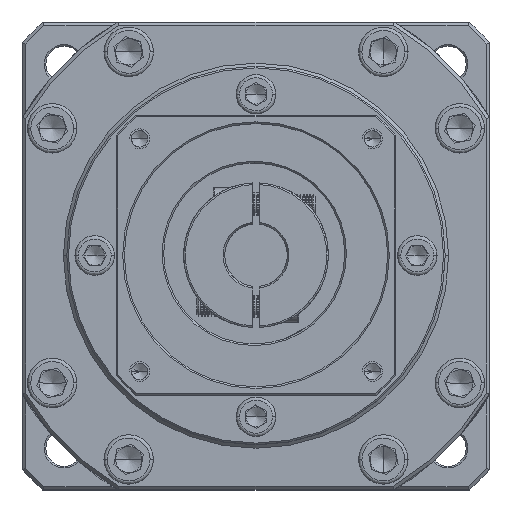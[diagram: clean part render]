
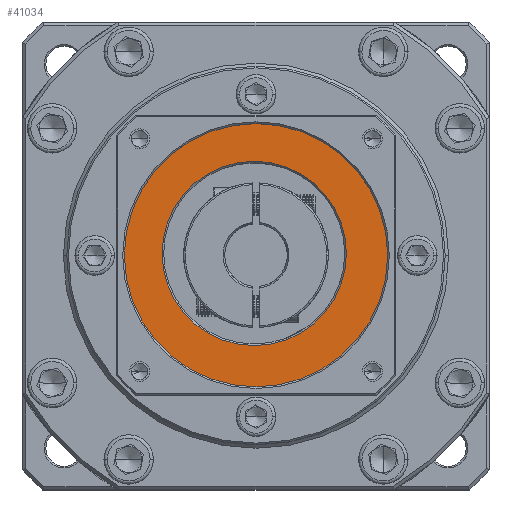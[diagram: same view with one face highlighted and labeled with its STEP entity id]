
A CAD part, top view. The second image highlights one B-rep face of the part: STEP entity #41034.
In plain terms, the highlighted planar face has unit normal (0, 0, 1).
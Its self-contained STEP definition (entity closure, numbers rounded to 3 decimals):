
#637 = DIRECTION ( 'NONE',  ( 0., 0., -1. ) ) ;
#3594 = DIRECTION ( 'NONE',  ( 0., 0., 1. ) ) ;
#15578 = CARTESIAN_POINT ( 'NONE',  ( -158.05, 126.321, 0.269 ) ) ;
#18620 = AXIS2_PLACEMENT_3D ( 'NONE', #46428, #637, #35638 ) ;
#21663 = AXIS2_PLACEMENT_3D ( 'NONE', #110351, #30998, #65456 ) ;
#29752 = ORIENTED_EDGE ( 'NONE', *, *, #109157, .T. ) ;
#29793 = CARTESIAN_POINT ( 'NONE',  ( -129.509, 125.787, 0.269 ) ) ;
#30998 = DIRECTION ( 'NONE',  ( 0., 0., -1. ) ) ;
#35638 = DIRECTION ( 'NONE',  ( 1., 0., 0. ) ) ;
#35914 = VERTEX_POINT ( 'NONE', #68005 ) ;
#37041 = EDGE_CURVE ( 'NONE', #78950, #104070, #124041, .T. ) ;
#39212 = CARTESIAN_POINT ( 'NONE',  ( -89.509, 125.787, 0.269 ) ) ;
#40655 = DIRECTION ( 'NONE',  ( 1., 0., 0. ) ) ;
#41034 = ADVANCED_FACE ( 'NONE', ( #93821, #107941 ), #129859, .T. ) ;
#44352 = ORIENTED_EDGE ( 'NONE', *, *, #104138, .T. ) ;
#46428 = CARTESIAN_POINT ( 'NONE',  ( -130.05, 126.321, 0.269 ) ) ;
#47706 = CIRCLE ( 'NONE', #18620, 28. ) ;
#49732 = CIRCLE ( 'NONE', #21663, 28. ) ;
#56144 = ORIENTED_EDGE ( 'NONE', *, *, #72880, .T. ) ;
#62219 = CARTESIAN_POINT ( 'NONE',  ( -129.509, 125.787, 0.269 ) ) ;
#65456 = DIRECTION ( 'NONE',  ( 1., 0., 0. ) ) ;
#68005 = CARTESIAN_POINT ( 'NONE',  ( -102.05, 126.321, 0.269 ) ) ;
#72119 = DIRECTION ( 'NONE',  ( 0., 0., 1. ) ) ;
#72880 = EDGE_CURVE ( 'NONE', #35914, #137741, #47706, .T. ) ;
#73685 = DIRECTION ( 'NONE',  ( 0., 0., 1. ) ) ;
#75957 = ORIENTED_EDGE ( 'NONE', *, *, #37041, .T. ) ;
#78950 = VERTEX_POINT ( 'NONE', #132210 ) ;
#93814 = DIRECTION ( 'NONE',  ( 1., 0., 0. ) ) ;
#93821 = FACE_OUTER_BOUND ( 'NONE', #119314, .T. ) ;
#104070 = VERTEX_POINT ( 'NONE', #39212 ) ;
#104138 = EDGE_CURVE ( 'NONE', #104070, #78950, #105137, .T. ) ;
#105137 = CIRCLE ( 'NONE', #135076, 40. ) ;
#106613 = CARTESIAN_POINT ( 'NONE',  ( -129.509, 125.787, 0.269 ) ) ;
#107458 = AXIS2_PLACEMENT_3D ( 'NONE', #106613, #3594, #93814 ) ;
#107941 = FACE_BOUND ( 'NONE', #143272, .T. ) ;
#109157 = EDGE_CURVE ( 'NONE', #137741, #35914, #49732, .T. ) ;
#110351 = CARTESIAN_POINT ( 'NONE',  ( -130.05, 126.321, 0.269 ) ) ;
#119314 = EDGE_LOOP ( 'NONE', ( #44352, #75957 ) ) ;
#124041 = CIRCLE ( 'NONE', #107458, 40. ) ;
#129859 = PLANE ( 'NONE',  #142098 ) ;
#132210 = CARTESIAN_POINT ( 'NONE',  ( -169.509, 125.787, 0.269 ) ) ;
#135076 = AXIS2_PLACEMENT_3D ( 'NONE', #29793, #73685, #40655 ) ;
#137741 = VERTEX_POINT ( 'NONE', #15578 ) ;
#139756 = DIRECTION ( 'NONE',  ( 1., 0., 0. ) ) ;
#142098 = AXIS2_PLACEMENT_3D ( 'NONE', #62219, #72119, #139756 ) ;
#143272 = EDGE_LOOP ( 'NONE', ( #56144, #29752 ) ) ;
